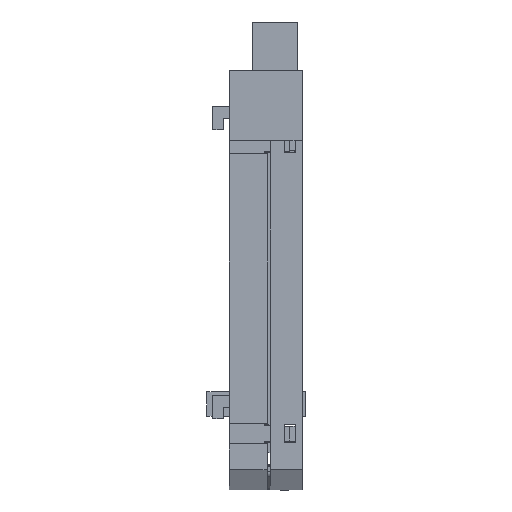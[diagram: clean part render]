
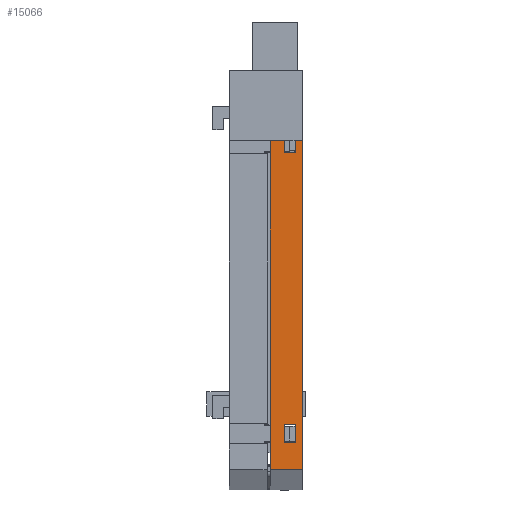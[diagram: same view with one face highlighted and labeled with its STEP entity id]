
A CAD part, front view. The second image highlights one B-rep face of the part: STEP entity #15066.
In plain terms, the highlighted planar face has unit normal (0, -1, 0).
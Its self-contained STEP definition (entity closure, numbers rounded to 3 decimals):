
#313 = VERTEX_POINT ( 'NONE', #26796 ) ;
#420 = EDGE_LOOP ( 'NONE', ( #8258, #7624, #8918, #26421 ) ) ;
#791 = VERTEX_POINT ( 'NONE', #22778 ) ;
#1127 = CARTESIAN_POINT ( 'NONE',  ( 5.5, 0., 0. ) ) ;
#1312 = EDGE_LOOP ( 'NONE', ( #12085, #3312, #6785, #20773 ) ) ;
#1764 = VECTOR ( 'NONE', #20647, 1000. ) ;
#1854 = CARTESIAN_POINT ( 'NONE',  ( 5.5, 0., 0. ) ) ;
#2262 = EDGE_CURVE ( 'NONE', #313, #10243, #3353, .T. ) ;
#2284 = CARTESIAN_POINT ( 'NONE',  ( 2.4, 0., -10.945 ) ) ;
#2534 = LINE ( 'NONE', #15757, #1764 ) ;
#2606 = CARTESIAN_POINT ( 'NONE',  ( 5.5, 0., -65.25 ) ) ;
#2919 = LINE ( 'NONE', #28540, #21745 ) ;
#3025 = VECTOR ( 'NONE', #13625, 1000. ) ;
#3312 = ORIENTED_EDGE ( 'NONE', *, *, #29693, .T. ) ;
#3353 = LINE ( 'NONE', #26243, #21434 ) ;
#3369 = VERTEX_POINT ( 'NONE', #18891 ) ;
#3390 = VERTEX_POINT ( 'NONE', #13593 ) ;
#3625 = DIRECTION ( 'NONE',  ( 0., 0., 1. ) ) ;
#4123 = EDGE_CURVE ( 'NONE', #3390, #5002, #26663, .T. ) ;
#4198 = ORIENTED_EDGE ( 'NONE', *, *, #9372, .F. ) ;
#4307 = CARTESIAN_POINT ( 'NONE',  ( 5.5, 0., -65.25 ) ) ;
#4326 = FACE_OUTER_BOUND ( 'NONE', #26714, .T. ) ;
#4956 = LINE ( 'NONE', #19707, #30291 ) ;
#5002 = VERTEX_POINT ( 'NONE', #25238 ) ;
#5948 = DIRECTION ( 'NONE',  ( 0., 0., 1. ) ) ;
#6785 = ORIENTED_EDGE ( 'NONE', *, *, #19118, .T. ) ;
#7624 = ORIENTED_EDGE ( 'NONE', *, *, #25403, .T. ) ;
#7989 = VERTEX_POINT ( 'NONE', #11516 ) ;
#8179 = LINE ( 'NONE', #2606, #13983 ) ;
#8258 = ORIENTED_EDGE ( 'NONE', *, *, #13123, .T. ) ;
#8918 = ORIENTED_EDGE ( 'NONE', *, *, #27259, .T. ) ;
#9081 = CARTESIAN_POINT ( 'NONE',  ( 4.4, 0., -60.645 ) ) ;
#9372 = EDGE_CURVE ( 'NONE', #18752, #30016, #4956, .T. ) ;
#9633 = AXIS2_PLACEMENT_3D ( 'NONE', #1127, #18425, #3625 ) ;
#10145 = DIRECTION ( 'NONE',  ( 0., 0., -1. ) ) ;
#10243 = VERTEX_POINT ( 'NONE', #9081 ) ;
#10876 = FACE_BOUND ( 'NONE', #1312, .T. ) ;
#11066 = CARTESIAN_POINT ( 'NONE',  ( 4.4, 0., -7.845 ) ) ;
#11516 = CARTESIAN_POINT ( 'NONE',  ( 0., 0., 0. ) ) ;
#12055 = EDGE_CURVE ( 'NONE', #18752, #7989, #12630, .T. ) ;
#12085 = ORIENTED_EDGE ( 'NONE', *, *, #13003, .T. ) ;
#12405 = DIRECTION ( 'NONE',  ( -1., 0., 0. ) ) ;
#12630 = LINE ( 'NONE', #29511, #31402 ) ;
#12842 = CARTESIAN_POINT ( 'NONE',  ( 2.4, 0., -7.845 ) ) ;
#13003 = EDGE_CURVE ( 'NONE', #5002, #791, #2534, .T. ) ;
#13123 = EDGE_CURVE ( 'NONE', #10243, #17090, #2919, .T. ) ;
#13578 = VECTOR ( 'NONE', #5948, 1000. ) ;
#13593 = CARTESIAN_POINT ( 'NONE',  ( 4.4, 0., -10.945 ) ) ;
#13625 = DIRECTION ( 'NONE',  ( 1., 0., 0. ) ) ;
#13763 = VECTOR ( 'NONE', #23347, 1000. ) ;
#13983 = VECTOR ( 'NONE', #24865, 1000. ) ;
#14057 = VECTOR ( 'NONE', #22699, 1000. ) ;
#15066 = ADVANCED_FACE ( 'NONE', ( #10876, #16705, #4326 ), #30567, .F. ) ;
#15757 = CARTESIAN_POINT ( 'NONE',  ( 2.4, 0., -10.945 ) ) ;
#16705 = FACE_BOUND ( 'NONE', #420, .T. ) ;
#17090 = VERTEX_POINT ( 'NONE', #29432 ) ;
#18276 = CARTESIAN_POINT ( 'NONE',  ( 2.4, 0., -60.645 ) ) ;
#18425 = DIRECTION ( 'NONE',  ( 0., 1., 0. ) ) ;
#18752 = VERTEX_POINT ( 'NONE', #1854 ) ;
#18777 = DIRECTION ( 'NONE',  ( 0., 0., -1. ) ) ;
#18880 = EDGE_CURVE ( 'NONE', #7989, #22174, #30489, .T. ) ;
#18891 = CARTESIAN_POINT ( 'NONE',  ( 2.4, 0., -57.545 ) ) ;
#19118 = EDGE_CURVE ( 'NONE', #24809, #3390, #21034, .T. ) ;
#19404 = VECTOR ( 'NONE', #31505, 1000. ) ;
#19496 = ORIENTED_EDGE ( 'NONE', *, *, #12055, .T. ) ;
#19707 = CARTESIAN_POINT ( 'NONE',  ( 5.5, 0., 0. ) ) ;
#20570 = LINE ( 'NONE', #12842, #14057 ) ;
#20647 = DIRECTION ( 'NONE',  ( 0., 0., 1. ) ) ;
#20773 = ORIENTED_EDGE ( 'NONE', *, *, #4123, .T. ) ;
#20874 = LINE ( 'NONE', #18276, #13578 ) ;
#21034 = LINE ( 'NONE', #30815, #13763 ) ;
#21169 = EDGE_CURVE ( 'NONE', #30016, #22174, #8179, .T. ) ;
#21434 = VECTOR ( 'NONE', #23904, 1000. ) ;
#21525 = ORIENTED_EDGE ( 'NONE', *, *, #21169, .F. ) ;
#21745 = VECTOR ( 'NONE', #31016, 1000. ) ;
#21852 = LINE ( 'NONE', #30771, #3025 ) ;
#22174 = VERTEX_POINT ( 'NONE', #30437 ) ;
#22396 = CARTESIAN_POINT ( 'NONE',  ( 0., 0., 0. ) ) ;
#22699 = DIRECTION ( 'NONE',  ( 1., 0., 0. ) ) ;
#22778 = CARTESIAN_POINT ( 'NONE',  ( 2.4, 0., -7.845 ) ) ;
#23347 = DIRECTION ( 'NONE',  ( 0., 0., -1. ) ) ;
#23904 = DIRECTION ( 'NONE',  ( 0., 0., -1. ) ) ;
#24719 = VECTOR ( 'NONE', #10145, 1000. ) ;
#24809 = VERTEX_POINT ( 'NONE', #11066 ) ;
#24865 = DIRECTION ( 'NONE',  ( -1., 0., 0. ) ) ;
#25238 = CARTESIAN_POINT ( 'NONE',  ( 2.4, 0., -10.945 ) ) ;
#25403 = EDGE_CURVE ( 'NONE', #17090, #3369, #20874, .T. ) ;
#26243 = CARTESIAN_POINT ( 'NONE',  ( 4.4, 0., -60.645 ) ) ;
#26421 = ORIENTED_EDGE ( 'NONE', *, *, #2262, .T. ) ;
#26663 = LINE ( 'NONE', #2284, #19404 ) ;
#26714 = EDGE_LOOP ( 'NONE', ( #29074, #21525, #4198, #19496 ) ) ;
#26796 = CARTESIAN_POINT ( 'NONE',  ( 4.4, 0., -57.545 ) ) ;
#27259 = EDGE_CURVE ( 'NONE', #3369, #313, #21852, .T. ) ;
#28540 = CARTESIAN_POINT ( 'NONE',  ( 2.4, 0., -60.645 ) ) ;
#29074 = ORIENTED_EDGE ( 'NONE', *, *, #18880, .T. ) ;
#29432 = CARTESIAN_POINT ( 'NONE',  ( 2.4, 0., -60.645 ) ) ;
#29511 = CARTESIAN_POINT ( 'NONE',  ( 5.5, 0., 0. ) ) ;
#29693 = EDGE_CURVE ( 'NONE', #791, #24809, #20570, .T. ) ;
#30016 = VERTEX_POINT ( 'NONE', #4307 ) ;
#30291 = VECTOR ( 'NONE', #18777, 1000. ) ;
#30437 = CARTESIAN_POINT ( 'NONE',  ( 0., 0., -65.25 ) ) ;
#30489 = LINE ( 'NONE', #22396, #24719 ) ;
#30567 = PLANE ( 'NONE',  #9633 ) ;
#30771 = CARTESIAN_POINT ( 'NONE',  ( 2.4, 0., -57.545 ) ) ;
#30815 = CARTESIAN_POINT ( 'NONE',  ( 4.4, 0., -10.945 ) ) ;
#31016 = DIRECTION ( 'NONE',  ( -1., 0., 0. ) ) ;
#31402 = VECTOR ( 'NONE', #12405, 1000. ) ;
#31505 = DIRECTION ( 'NONE',  ( -1., 0., 0. ) ) ;
